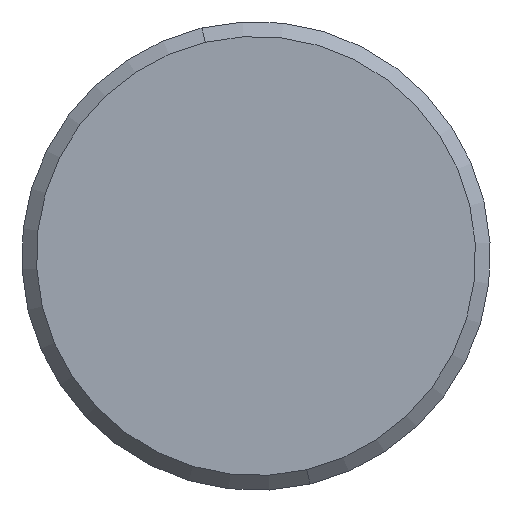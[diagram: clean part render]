
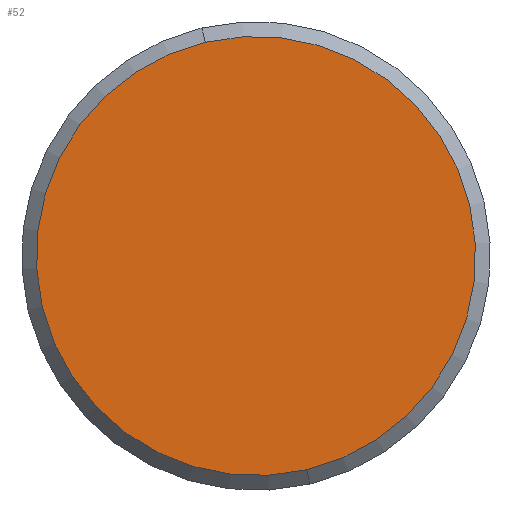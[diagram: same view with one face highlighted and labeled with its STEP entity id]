
A CAD part, front view. The second image highlights one B-rep face of the part: STEP entity #52.
In plain terms, the highlighted planar face has unit normal (0, -1, 0).
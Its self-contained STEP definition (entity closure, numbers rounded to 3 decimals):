
#52 = ADVANCED_FACE ( 'NONE', ( #253 ), #899, .T. ) ;
#146 = VERTEX_POINT ( 'NONE', #529 ) ;
#180 = EDGE_LOOP ( 'NONE', ( #197, #1566 ) ) ;
#197 = ORIENTED_EDGE ( 'NONE', *, *, #1382, .T. ) ;
#253 = FACE_OUTER_BOUND ( 'NONE', #180, .T. ) ;
#270 = VERTEX_POINT ( 'NONE', #634 ) ;
#471 = CARTESIAN_POINT ( 'NONE',  ( -15.875, 0., 0. ) ) ;
#481 = DIRECTION ( 'NONE',  ( 0., 0., -1. ) ) ;
#529 = CARTESIAN_POINT ( 'NONE',  ( 0., 0., 14.875 ) ) ;
#634 = CARTESIAN_POINT ( 'NONE',  ( 0., 0., -14.875 ) ) ;
#648 = DIRECTION ( 'NONE',  ( 0., -1., 0. ) ) ;
#708 = DIRECTION ( 'NONE',  ( 0., 0., -1. ) ) ;
#714 = CARTESIAN_POINT ( 'NONE',  ( 0., 0., 0. ) ) ;
#725 = CARTESIAN_POINT ( 'NONE',  ( 0., 0., 0. ) ) ;
#731 = DIRECTION ( 'NONE',  ( 0., -1., 0. ) ) ;
#732 = DIRECTION ( 'NONE',  ( 0., 0., -1. ) ) ;
#793 = DIRECTION ( 'NONE',  ( 0., -1., 0. ) ) ;
#899 = PLANE ( 'NONE',  #1225 ) ;
#1225 = AXIS2_PLACEMENT_3D ( 'NONE', #471, #648, #481 ) ;
#1252 = AXIS2_PLACEMENT_3D ( 'NONE', #725, #731, #732 ) ;
#1258 = AXIS2_PLACEMENT_3D ( 'NONE', #714, #793, #708 ) ;
#1382 = EDGE_CURVE ( 'NONE', #146, #270, #1630, .T. ) ;
#1391 = EDGE_CURVE ( 'NONE', #270, #146, #1592, .T. ) ;
#1566 = ORIENTED_EDGE ( 'NONE', *, *, #1391, .T. ) ;
#1592 = CIRCLE ( 'NONE', #1258, 14.875 ) ;
#1630 = CIRCLE ( 'NONE', #1252, 14.875 ) ;
